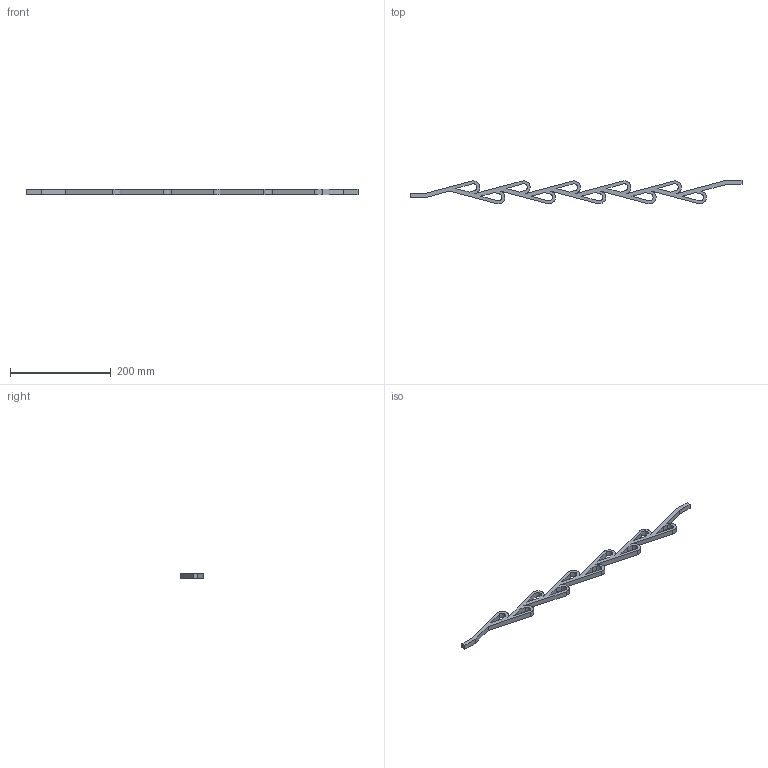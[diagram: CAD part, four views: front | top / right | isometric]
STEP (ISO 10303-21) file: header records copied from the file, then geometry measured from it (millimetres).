
FILE_DESCRIPTION (( 'STEP AP203' ), '1' );
FILE_NAME ('TeslaOneWayValve.STEP', '2016-04-12T15:29:16', ( '' ), ( '' ), 'SwSTEP 2.0', 'SolidWorks 2012', '' );
FILE_SCHEMA (( 'CONFIG_CONTROL_DESIGN' ));
Length unit declared in the file: millimetre
Products named in the file (1): TeslaOneWayValve
Bounding box: 658.95 x 46.93 x 10 mm (x, y, z)
Volume: 99964.5 mm3; surface area: 46533.1 mm2
Topology: 1 solids, 1 shells, 71 faces, 207 edges, 138 vertices
Faces by surface type: plane 51, cylinder 20
Entity records: 2458 total; most frequent: CARTESIAN_POINT 417, ORIENTED_EDGE 414, DIRECTION 391, EDGE_CURVE 207, VECTOR 167, LINE 167, VERTEX_POINT 138, AXIS2_PLACEMENT_3D 112
